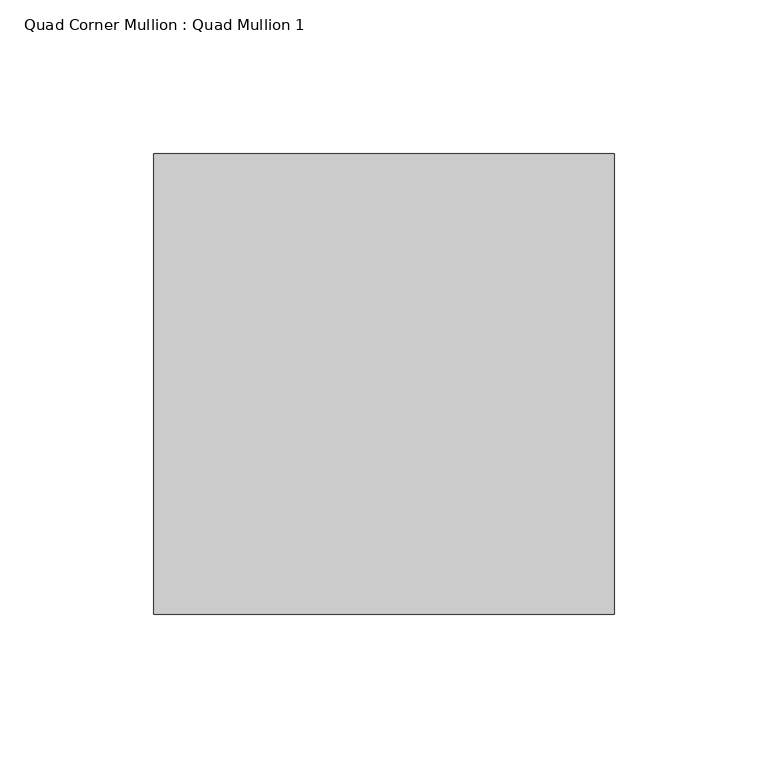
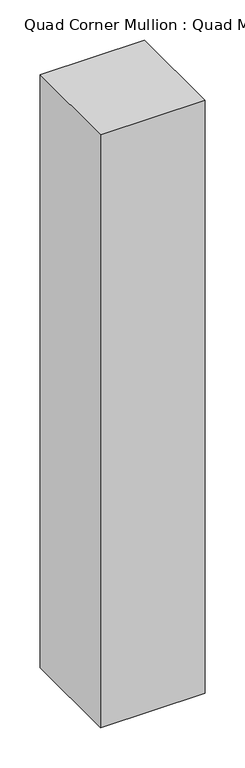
"""IFC4 building model written with IfcOpenShell, lengths in millimetres: member geometry, Quad Corner Mullion : Quad Mullion 1."""

import ifcopenshell
import ifcopenshell.guid

model = None  # the IFC model being written
_history = None  # IfcOwnerHistory: only IFC2X3 demands one
_inside = {}  # id of a spatial element -> (the spatial element, [elements in it])
_under = {}  # id of a project, library or spatial element -> (it, [spatial elements below it])
_declared = {}  # id of a project -> (the project, [libraries it declares])
_typed = {}  # id of a type object -> (the type object, [elements of that type])
_made_of = {}  # id of a material, layer set ... -> (it, [elements and type objects made of it])


def new_model(schema):
    """Start an empty IFC model of exactly this schema.

    Asked for "IFC4X3", IfcOpenShell would pick the latest addendum, in which some entities
    have other attributes; the version numbers below select the first issue.
    IFC2X3 requires an IfcOwnerHistory on every rooted entity: one is made here for all.
    """
    global model, _history
    if schema == "IFC4X3":
        model = ifcopenshell.file(schema_version=(4, 3, 0, 0))
    else:
        model = ifcopenshell.file(schema=schema)
    _inside.clear()
    _under.clear()
    _declared.clear()
    _typed.clear()
    _made_of.clear()
    _history = None
    if model.schema == "IFC2X3":
        org = make("IfcOrganization", Name="unknown")
        user = make(
            "IfcPersonAndOrganization",
            ThePerson=make("IfcPerson", FamilyName="unknown"),
            TheOrganization=org,
        )
        app = make(
            "IfcApplication",
            ApplicationDeveloper=org,
            Version="unknown",
            ApplicationFullName="unknown",
            ApplicationIdentifier="unknown",
        )
        _history = make(
            "IfcOwnerHistory",
            OwningUser=user,
            OwningApplication=app,
            ChangeAction="ADDED",
            CreationDate=0,
        )
    return model


def make(cls, **values):
    """One entity of the class cls with the attributes given. An attribute that is None is left unset."""
    return model.create_entity(
        cls, **{name: value for name, value in values.items() if value is not None}
    )


def rooted(cls, **values):
    """An entity with a GlobalId (a new one), such as an element, a storey or a relation."""
    return make(cls, GlobalId=ifcopenshell.guid.new(), OwnerHistory=_history, **values)


def si_unit(unit_type, name, prefix=None):
    """IfcSIUnit, for example si_unit("LENGTHUNIT", "METRE", prefix="MILLI")."""
    return make("IfcSIUnit", UnitType=unit_type, Prefix=prefix, Name=name)


def assignment(units):
    """IfcUnitAssignment: the units of a project."""
    return None if units is None else make("IfcUnitAssignment", Units=units)


def point(xyz):
    """IfcCartesianPoint."""
    return None if xyz is None else make("IfcCartesianPoint", Coordinates=xyz)


def direction(xyz):
    """IfcDirection."""
    return None if xyz is None else make("IfcDirection", DirectionRatios=xyz)


def frame(location, z_axis=None, x_axis=None):
    """IfcAxis2Placement3D, a coordinate frame: its origin and axes. An axis left out is left unset."""
    return make(
        "IfcAxis2Placement3D",
        Location=point(location),
        Axis=direction(z_axis),
        RefDirection=direction(x_axis),
    )


def origin():
    """The frame at (0, 0, 0) with its axes left unset."""
    return frame((0.0, 0.0, 0.0))


def place(relative_to, where):
    """IfcLocalPlacement: puts the frame where relative to a parent placement (None: the world)."""
    return make(
        "IfcLocalPlacement", PlacementRelTo=relative_to, RelativePlacement=where
    )


def context(
    kind, dimensions, precision=None, world=None, true_north=None, identifier=None
):
    """IfcGeometricRepresentationContext, for example the 3D "Model" context."""
    return make(
        "IfcGeometricRepresentationContext",
        ContextIdentifier=identifier,
        ContextType=kind,
        CoordinateSpaceDimension=dimensions,
        Precision=precision,
        WorldCoordinateSystem=world,
        TrueNorth=true_north,
    )


def project(units=None, contexts=None):
    """IfcProject with its units and contexts."""
    return rooted(
        "IfcProject",
        Name="project",
        RepresentationContexts=contexts,
        UnitsInContext=assignment(units),
    )


def spatial(cls, under=None, at=None, **own):
    """A site, building, storey or space (cls), placed at a placement, below another one or the project."""
    s = rooted(cls, ObjectPlacement=at, **own)
    if under is not None:
        _under.setdefault(under.id(), (under, []))[1].append(s)
    return s


def polyline(points):
    """IfcPolyline through the points."""
    return make("IfcPolyline", Points=[point(p) for p in points])


def outline(outer, holes=None, kind="AREA"):
    """IfcArbitraryClosedProfileDef: a profile drawn as a closed curve; with holes, ...WithVoids."""
    if holes is None:
        return make("IfcArbitraryClosedProfileDef", ProfileType=kind, OuterCurve=outer)
    return make(
        "IfcArbitraryProfileDefWithVoids",
        ProfileType=kind,
        OuterCurve=outer,
        InnerCurves=holes,
    )


def extrude(swept, where, along, depth):
    """IfcExtrudedAreaSolid: the profile swept, set in the frame where, extruded along a direction by depth."""
    return make(
        "IfcExtrudedAreaSolid",
        SweptArea=swept,
        Position=where,
        ExtrudedDirection=direction(along),
        Depth=depth,
    )


def shape(context_of_items, identifier, shape_type, items):
    """IfcShapeRepresentation: the items that make up one representation, for example the "Body"."""
    return make(
        "IfcShapeRepresentation",
        ContextOfItems=context_of_items,
        RepresentationIdentifier=identifier,
        RepresentationType=shape_type,
        Items=items,
    )


def source(mapping_origin, context_of_items, identifier, shape_type, items):
    """IfcRepresentationMap: a shape defined once, which mapped items show again and again."""
    return make(
        "IfcRepresentationMap",
        MappingOrigin=mapping_origin,
        MappedRepresentation=shape(context_of_items, identifier, shape_type, items),
    )


def transform(
    local_origin,
    x_axis=None,
    y_axis=None,
    z_axis=None,
    scale=None,
    scale2=None,
    scale3=None,
    uniform=True,
):
    """IfcCartesianTransformationOperator3D, or its non-uniform kind. x_axis, y_axis, z_axis: its Axis1, 2, 3."""
    if uniform:
        return make(
            "IfcCartesianTransformationOperator3D",
            Axis1=direction(x_axis),
            Axis2=direction(y_axis),
            LocalOrigin=point(local_origin),
            Scale=scale,
            Axis3=direction(z_axis),
        )
    return make(
        "IfcCartesianTransformationOperator3DnonUniform",
        Axis1=direction(x_axis),
        Axis2=direction(y_axis),
        LocalOrigin=point(local_origin),
        Scale=scale,
        Axis3=direction(z_axis),
        Scale2=scale2,
        Scale3=scale3,
    )


def mapped(mapping_source, mapping_target):
    """IfcMappedItem: shows the shape of a source again, moved by a transform."""
    return make(
        "IfcMappedItem", MappingSource=mapping_source, MappingTarget=mapping_target
    )


def made_of(thing, what):
    """Note that an element or type object is made of a material, layer set ...; save() writes the relation."""
    if what is not None:
        _made_of.setdefault(what.id(), (what, []))[1].append(thing)
    return thing


def element(
    cls,
    number,
    at=None,
    inside=None,
    cuts=None,
    type_object=None,
    material=None,
    context=None,
    identifier="Body",
    shape_type=None,
    held_by="IfcProductDefinitionShape",
    body=None,
    shapes=None,
    **own,
):
    """One element of the class cls, such as IfcWall. Its Tag is "e" and its number.

    at: its placement. inside: the storey or other place that contains it. cuts: it is an
    opening in that element (IfcRelVoidsElement). A single representation is given by context,
    identifier, shape_type and body (its items); several are given by shapes. held_by: the class
    of the entity that holds the representations. save() writes the other relations.
    """
    e = rooted(cls, Tag="e%d" % number, ObjectPlacement=at, **own)
    if body is not None:
        shapes = [shape(context, identifier, shape_type, body)]
    if shapes is not None:
        e.Representation = make(held_by, Representations=shapes)
    if inside is not None:
        _inside.setdefault(inside.id(), (inside, []))[1].append(e)
    if cuts is not None:
        rooted(
            "IfcRelVoidsElement", RelatingBuildingElement=cuts, RelatedOpeningElement=e
        )
    if type_object is not None:
        _typed.setdefault(type_object.id(), (type_object, []))[1].append(e)
    return made_of(e, material)


def aggregate(whole, parts):
    """IfcRelAggregates: a whole, such as a stair, and the parts it consists of."""
    return rooted("IfcRelAggregates", RelatingObject=whole, RelatedObjects=parts)


def save(model, path):
    """Write the relations noted so far, then the file.

    IfcRelAggregates (storeys below a building ...), IfcRelContainedInSpatialStructure (elements
    in a storey), IfcRelDefinesByType, IfcRelAssociatesMaterial and IfcRelDeclares: one each for
    every whole, place, type object, material and project.
    """
    for whole, parts in _under.values():
        aggregate(whole, parts)
    for where, things in _inside.values():
        rooted(
            "IfcRelContainedInSpatialStructure",
            RelatedElements=things,
            RelatingStructure=where,
        )
    for kind, things in _typed.values():
        rooted("IfcRelDefinesByType", RelatedObjects=things, RelatingType=kind)
    for what, things in _made_of.values():
        rooted("IfcRelAssociatesMaterial", RelatedObjects=things, RelatingMaterial=what)
    for by, libraries in _declared.values():
        rooted("IfcRelDeclares", RelatingContext=by, RelatedDefinitions=libraries)
    model.write(path)


def quad_corner_mullion_quad_mullion_1_2cf40457(model_context):
    return source(origin(), model_context, "Body", "SweptSolid", [
        extrude(outline(polyline([(75.0, 75.0), (75.0, -75.0), (-75.0, -75.0), (-75.0, 75.0), (75.0, 75.0)])), frame((0.0, 0.0, -900.0), z_axis=(0.0, 0.0, 1.0), x_axis=(1.0, 0.0, 0.0)), (0.0, 0.0, 1.0), 900.0),
    ])


if __name__ == "__main__":
    model = new_model("IFC4")
    model_context = context("Model", 3, world=origin())
    ifc_project = project(units=[si_unit("LENGTHUNIT", "METRE", prefix="MILLI")], contexts=[model_context])
    site = spatial("IfcSite", under=ifc_project)
    building = spatial("IfcBuilding", under=site)
    placement = place(None, origin())
    quad_corner_mullion_quad_mullion_1_shape = quad_corner_mullion_quad_mullion_1_2cf40457(model_context)
    element("IfcMember", 1, ObjectType="Quad Corner Mullion : Quad Mullion 1", at=placement, inside=building, context=model_context, shape_type="MappedRepresentation", body=[
        mapped(quad_corner_mullion_quad_mullion_1_shape, transform((0.0, 0.0, 0.0), x_axis=(1.0, 0.0, 0.0), y_axis=(0.0, 1.0, 0.0), z_axis=(0.0, 0.0, 1.0))),
    ])
    save(model, "model.ifc")
